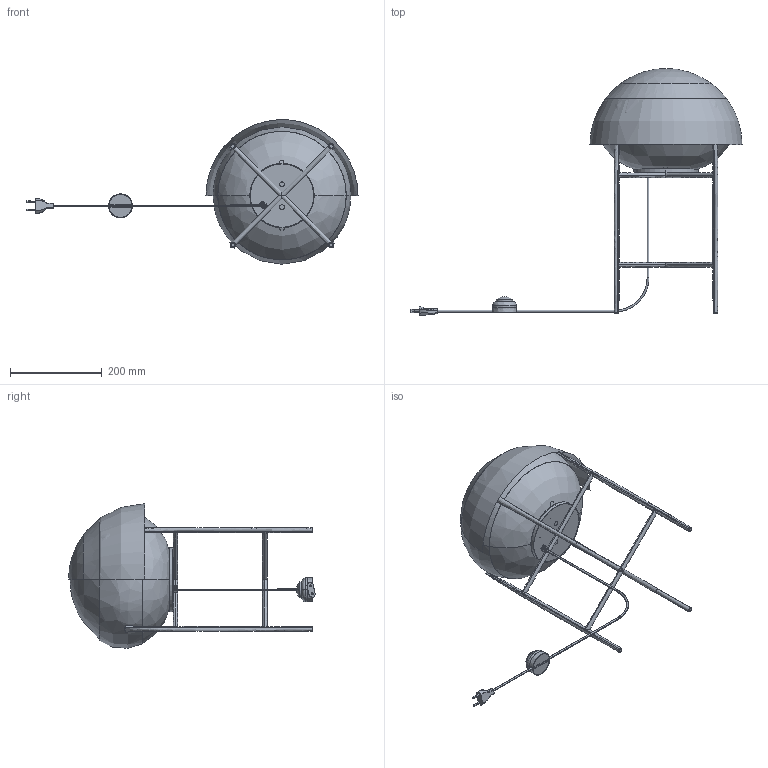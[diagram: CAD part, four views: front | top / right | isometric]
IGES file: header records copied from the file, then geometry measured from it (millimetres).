
Start section: SolidWorks IGES file using analytic representation for surfaces
Global section: file name: E:\3D lampy\Nuage\Nuage_9748.IGS; native system: SolidWorks 2016; preprocessor: SolidWorks 2016; author: Asia; date: 170622.143043; units: millimetre
Bounding box: 723.66 x 537.95 x 315.09 mm (x, y, z)
Surface area: 721741.4 mm2 (no closed solid volume)
Topology: 0 solids, 0 shells, 656 faces, 9759 edges, 9753 vertices
Faces by surface type: bspline 347, revolution 309
